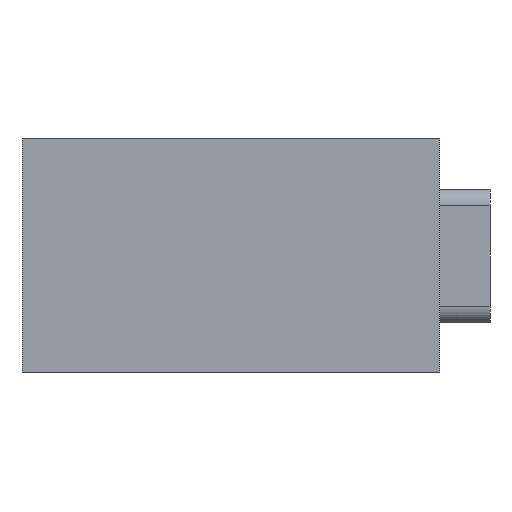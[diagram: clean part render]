
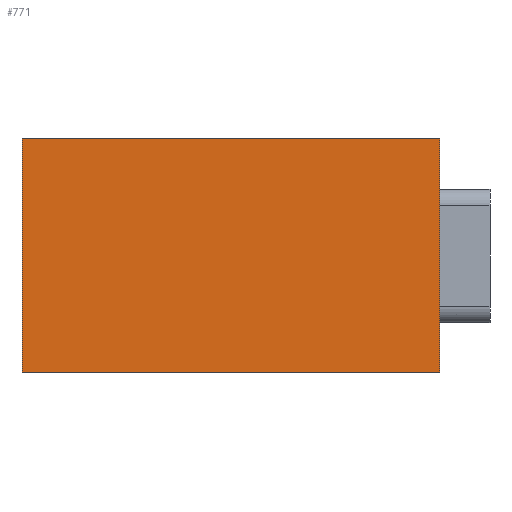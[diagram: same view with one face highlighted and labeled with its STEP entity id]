
A CAD part, front view. The second image highlights one B-rep face of the part: STEP entity #771.
In plain terms, the highlighted planar face has unit normal (0, -1, 0).
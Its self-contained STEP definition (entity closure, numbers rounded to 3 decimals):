
#70 = PLANE('',#71);
#71 = AXIS2_PLACEMENT_3D('',#72,#73,#74);
#72 = CARTESIAN_POINT('',(155.,0.,0.));
#73 = DIRECTION('',(1.,0.,0.));
#74 = DIRECTION('',(0.,0.,1.));
#290 = EDGE_CURVE('',#291,#293,#295,.T.);
#291 = VERTEX_POINT('',#292);
#292 = CARTESIAN_POINT('',(155.,0.,0.));
#293 = VERTEX_POINT('',#294);
#294 = CARTESIAN_POINT('',(155.,0.,28.));
#295 = SURFACE_CURVE('',#296,(#300,#307),.PCURVE_S1.);
#296 = LINE('',#297,#298);
#297 = CARTESIAN_POINT('',(155.,0.,0.));
#298 = VECTOR('',#299,1.);
#299 = DIRECTION('',(0.,0.,1.));
#300 = PCURVE('',#70,#301);
#301 = DEFINITIONAL_REPRESENTATION('',(#302),#306);
#302 = LINE('',#303,#304);
#303 = CARTESIAN_POINT('',(0.,0.));
#304 = VECTOR('',#305,1.);
#305 = DIRECTION('',(1.,0.));
#306 = ( GEOMETRIC_REPRESENTATION_CONTEXT(2) 
PARAMETRIC_REPRESENTATION_CONTEXT() REPRESENTATION_CONTEXT('2D SPACE',''
  ) );
#307 = PCURVE('',#308,#313);
#308 = PLANE('',#309);
#309 = AXIS2_PLACEMENT_3D('',#310,#311,#312);
#310 = CARTESIAN_POINT('',(155.,0.,0.));
#311 = DIRECTION('',(0.,1.,0.));
#312 = DIRECTION('',(0.,0.,1.));
#313 = DEFINITIONAL_REPRESENTATION('',(#314),#318);
#314 = LINE('',#315,#316);
#315 = CARTESIAN_POINT('',(0.,0.));
#316 = VECTOR('',#317,1.);
#317 = DIRECTION('',(1.,0.));
#318 = ( GEOMETRIC_REPRESENTATION_CONTEXT(2) 
PARAMETRIC_REPRESENTATION_CONTEXT() REPRESENTATION_CONTEXT('2D SPACE',''
  ) );
#336 = PLANE('',#337);
#337 = AXIS2_PLACEMENT_3D('',#338,#339,#340);
#338 = CARTESIAN_POINT('',(155.,0.,0.));
#339 = DIRECTION('',(0.,0.,1.));
#340 = DIRECTION('',(1.,0.,0.));
#431 = PLANE('',#432);
#432 = AXIS2_PLACEMENT_3D('',#433,#434,#435);
#433 = CARTESIAN_POINT('',(155.,0.,28.));
#434 = DIRECTION('',(0.,0.,1.));
#435 = DIRECTION('',(1.,0.,0.));
#771 = ADVANCED_FACE('',(#772),#308,.F.);
#772 = FACE_BOUND('',#773,.F.);
#773 = EDGE_LOOP('',(#774,#797,#798,#821));
#774 = ORIENTED_EDGE('',*,*,#775,.F.);
#775 = EDGE_CURVE('',#291,#776,#778,.T.);
#776 = VERTEX_POINT('',#777);
#777 = CARTESIAN_POINT('',(205.,0.,0.));
#778 = SURFACE_CURVE('',#779,(#783,#790),.PCURVE_S1.);
#779 = LINE('',#780,#781);
#780 = CARTESIAN_POINT('',(155.,0.,0.));
#781 = VECTOR('',#782,1.);
#782 = DIRECTION('',(1.,0.,0.));
#783 = PCURVE('',#308,#784);
#784 = DEFINITIONAL_REPRESENTATION('',(#785),#789);
#785 = LINE('',#786,#787);
#786 = CARTESIAN_POINT('',(0.,0.));
#787 = VECTOR('',#788,1.);
#788 = DIRECTION('',(0.,1.));
#789 = ( GEOMETRIC_REPRESENTATION_CONTEXT(2) 
PARAMETRIC_REPRESENTATION_CONTEXT() REPRESENTATION_CONTEXT('2D SPACE',''
  ) );
#790 = PCURVE('',#336,#791);
#791 = DEFINITIONAL_REPRESENTATION('',(#792),#796);
#792 = LINE('',#793,#794);
#793 = CARTESIAN_POINT('',(0.,0.));
#794 = VECTOR('',#795,1.);
#795 = DIRECTION('',(1.,0.));
#796 = ( GEOMETRIC_REPRESENTATION_CONTEXT(2) 
PARAMETRIC_REPRESENTATION_CONTEXT() REPRESENTATION_CONTEXT('2D SPACE',''
  ) );
#797 = ORIENTED_EDGE('',*,*,#290,.T.);
#798 = ORIENTED_EDGE('',*,*,#799,.F.);
#799 = EDGE_CURVE('',#800,#293,#802,.T.);
#800 = VERTEX_POINT('',#801);
#801 = CARTESIAN_POINT('',(205.,0.,28.));
#802 = SURFACE_CURVE('',#803,(#807,#814),.PCURVE_S1.);
#803 = LINE('',#804,#805);
#804 = CARTESIAN_POINT('',(205.,0.,28.));
#805 = VECTOR('',#806,1.);
#806 = DIRECTION('',(-1.,0.,0.));
#807 = PCURVE('',#308,#808);
#808 = DEFINITIONAL_REPRESENTATION('',(#809),#813);
#809 = LINE('',#810,#811);
#810 = CARTESIAN_POINT('',(28.,50.));
#811 = VECTOR('',#812,1.);
#812 = DIRECTION('',(0.,-1.));
#813 = ( GEOMETRIC_REPRESENTATION_CONTEXT(2) 
PARAMETRIC_REPRESENTATION_CONTEXT() REPRESENTATION_CONTEXT('2D SPACE',''
  ) );
#814 = PCURVE('',#431,#815);
#815 = DEFINITIONAL_REPRESENTATION('',(#816),#820);
#816 = LINE('',#817,#818);
#817 = CARTESIAN_POINT('',(50.,0.));
#818 = VECTOR('',#819,1.);
#819 = DIRECTION('',(-1.,0.));
#820 = ( GEOMETRIC_REPRESENTATION_CONTEXT(2) 
PARAMETRIC_REPRESENTATION_CONTEXT() REPRESENTATION_CONTEXT('2D SPACE',''
  ) );
#821 = ORIENTED_EDGE('',*,*,#822,.F.);
#822 = EDGE_CURVE('',#776,#800,#823,.T.);
#823 = SURFACE_CURVE('',#824,(#828,#835),.PCURVE_S1.);
#824 = LINE('',#825,#826);
#825 = CARTESIAN_POINT('',(205.,0.,0.));
#826 = VECTOR('',#827,1.);
#827 = DIRECTION('',(0.,0.,1.));
#828 = PCURVE('',#308,#829);
#829 = DEFINITIONAL_REPRESENTATION('',(#830),#834);
#830 = LINE('',#831,#832);
#831 = CARTESIAN_POINT('',(0.,50.));
#832 = VECTOR('',#833,1.);
#833 = DIRECTION('',(1.,0.));
#834 = ( GEOMETRIC_REPRESENTATION_CONTEXT(2) 
PARAMETRIC_REPRESENTATION_CONTEXT() REPRESENTATION_CONTEXT('2D SPACE',''
  ) );
#835 = PCURVE('',#836,#841);
#836 = PLANE('',#837);
#837 = AXIS2_PLACEMENT_3D('',#838,#839,#840);
#838 = CARTESIAN_POINT('',(205.,0.,0.));
#839 = DIRECTION('',(1.,0.,0.));
#840 = DIRECTION('',(0.,0.,1.));
#841 = DEFINITIONAL_REPRESENTATION('',(#842),#846);
#842 = LINE('',#843,#844);
#843 = CARTESIAN_POINT('',(0.,0.));
#844 = VECTOR('',#845,1.);
#845 = DIRECTION('',(1.,0.));
#846 = ( GEOMETRIC_REPRESENTATION_CONTEXT(2) 
PARAMETRIC_REPRESENTATION_CONTEXT() REPRESENTATION_CONTEXT('2D SPACE',''
  ) );
